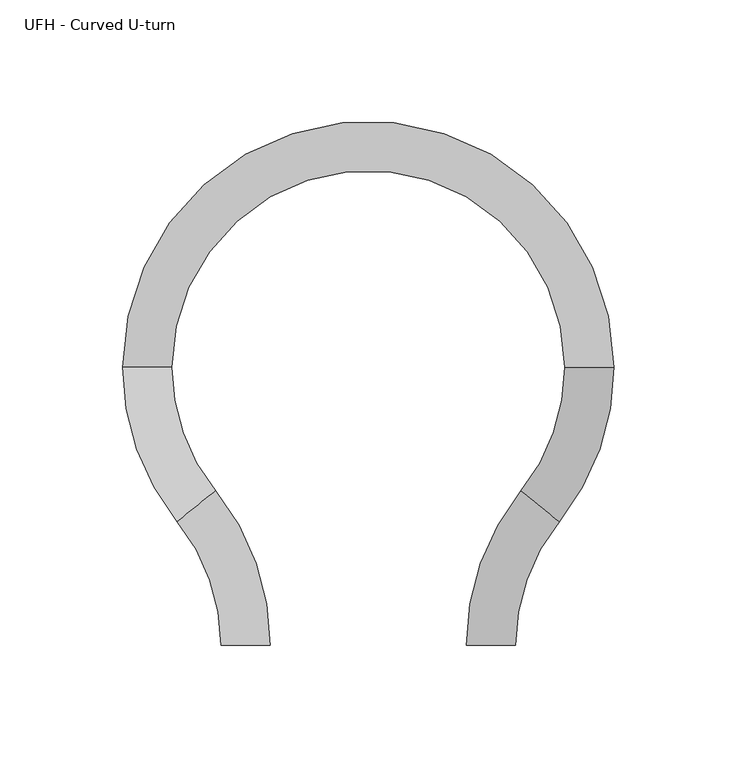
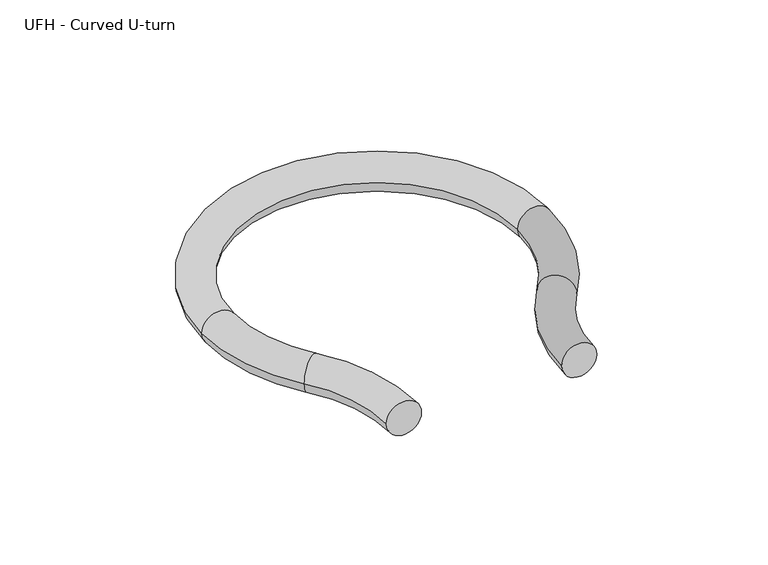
"""IFC4 building model written with IfcOpenShell, lengths in millimetres: pipe fitting geometry, UFH - Curved U-turn : Superpipe 2+ UFH Curved U-turn  - VA100."""

from ifc_helpers import new_model, si_unit, point, frame, origin, place, context, project, spatial, circle_curve, ellipse_curve, trimmed, source, transform, mapped, element, save
from ifc_brep_helpers import plane_surface, revolved_surface, advanced_brep


def ufh_curved_u_turn_aebeca01(model_context):
    return source(origin(), model_context, "Body", "AdvancedBrep", [
        advanced_brep(
        [(10.0, 0.0, 0.0), (-10.0, 0.0, 0.0), (-27.7777778, 50.2831489, 0.0), (-12.2222222, 62.8539361, 0.0), (-50.0, 113.137085, 0.0), (-30.0, 113.137085, 0.0), (150.0, 113.137085, 0.0), (130.0, 113.137085, 0.0), (127.7777778, 50.2831489, 0.0), (112.2222222, 62.8539361, 0.0), (90.0, 0.0, 0.0), (110.0, 0.0, 0.0)],
        [
            (0, 1, circle_curve(frame((0.0, 0.0, 0.0), z_axis=(0.0, -1.0, 0.0), x_axis=(-1.0, 0.0, 0.0)), 10.0)),
            (1, 0, circle_curve(frame((0.0, 0.0, 0.0), z_axis=(0.0, -1.0, 0.0), x_axis=(-1.0, 0.0, 0.0)), 10.0)),
            (2, 1, circle_curve(frame((-90.0, 0.0, 0.0), z_axis=(0.0, 0.0, -1.0), x_axis=(1.0, 0.0, 0.0)), 80.0)),
            (0, 3, circle_curve(frame((-90.0, 0.0, 0.0), z_axis=(0.0, 0.0, 1.0), x_axis=(1.0, 0.0, 0.0)), 100.0)),
            (3, 2, circle_curve(frame((-20.0, 56.5685425, 0.0), z_axis=(0.6285393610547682, -0.7777777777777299, 0.0), x_axis=(-0.7777777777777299, -0.6285393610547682, 0.0)), 10.0)),
            (2, 3, circle_curve(frame((-20.0, 56.5685425, 0.0), z_axis=(0.6285393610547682, -0.7777777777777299, 0.0), x_axis=(-0.7777777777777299, -0.6285393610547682, 0.0)), 10.0)),
            (4, 2, circle_curve(frame((50.0, 113.137085, 0.0), z_axis=(0.0, 0.0, 1.0), x_axis=(-0.7777777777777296, -0.6285393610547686, 0.0)), 100.0)),
            (3, 5, circle_curve(frame((50.0, 113.137085, 0.0), z_axis=(0.0, 0.0, -1.0), x_axis=(-0.7777777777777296, -0.6285393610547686, 0.0)), 80.0)),
            (5, 4, circle_curve(frame((-40.0, 113.137085, 0.0), z_axis=(0.0, -1.0, 0.0), x_axis=(-1.0, 0.0, 0.0)), 10.0)),
            (4, 5, circle_curve(frame((-40.0, 113.137085, 0.0), z_axis=(0.0, -1.0, 0.0), x_axis=(-1.0, 0.0, 0.0)), 10.0)),
            (6, 4, circle_curve(frame((50.0, 113.137085, 0.0), z_axis=(0.0, 0.0, 1.0), x_axis=(-1.0, 0.0, 0.0)), 100.0)),
            (5, 7, circle_curve(frame((50.0, 113.137085, 0.0), z_axis=(0.0, 0.0, -1.0), x_axis=(-1.0, 0.0, 0.0)), 80.0)),
            (7, 6, circle_curve(frame((140.0, 113.137085, 0.0), z_axis=(0.0, 1.0, 0.0), x_axis=(1.0, 0.0, 0.0)), 10.0)),
            (6, 7, circle_curve(frame((140.0, 113.137085, 0.0), z_axis=(0.0, 1.0, 0.0), x_axis=(1.0, 0.0, 0.0)), 10.0)),
            (8, 6, circle_curve(frame((50.0, 113.137085, 0.0), z_axis=(0.0, 0.0, 1.0), x_axis=(1.0, 0.0, 0.0)), 100.0)),
            (7, 9, circle_curve(frame((50.0, 113.137085, 0.0), z_axis=(0.0, 0.0, -1.0), x_axis=(1.0, 0.0, 0.0)), 80.0)),
            (9, 8, circle_curve(frame((120.0, 56.5685425, 0.0), z_axis=(0.6285393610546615, 0.7777777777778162, 0.0), x_axis=(0.7777777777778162, -0.6285393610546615, 0.0)), 10.0)),
            (8, 9, circle_curve(frame((120.0, 56.5685425, 0.0), z_axis=(0.6285393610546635, 0.7777777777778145, 0.0), x_axis=(0.7777777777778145, -0.6285393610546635, 0.0)), 10.0)),
            (10, 11, circle_curve(frame((100.0, 0.0, 0.0), z_axis=(0.0, -1.0, 0.0), x_axis=(1.0, 0.0, 0.0)), 10.0)),
            (11, 10, circle_curve(frame((100.0, 0.0, 0.0), z_axis=(0.0, -1.0, 0.0), x_axis=(1.0, 0.0, 0.0)), 10.0)),
            (11, 8, circle_curve(frame((190.0, 0.0, 0.0), z_axis=(0.0, 0.0, -1.0), x_axis=(-0.7777777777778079, 0.6285393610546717, 0.0)), 80.0)),
            (9, 10, circle_curve(frame((190.0, 0.0, 0.0), z_axis=(0.0, 0.0, 1.0), x_axis=(-0.7777777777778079, 0.6285393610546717, 0.0)), 100.0)),
        ],
        [
            plane_surface(frame((0.0, 0.0, 0.0), z_axis=(0.0, -1.0, 0.0), x_axis=(0.0, 0.0, 1.0))),
            revolved_surface(trimmed(ellipse_curve(frame((0.0, 0.0, 0.0), z_axis=(0.0, -1.0, 0.0), x_axis=(-1.0, 0.0, 0.0)), 10.0, 10.0), [point((10.0, 0.0, 0.0))], [point((-10.0, 0.0, 0.0))], True, "CARTESIAN"), (-90.0, 0.0, 0.0), (0.0, 0.0, 1.0)),
            revolved_surface(trimmed(ellipse_curve(frame((0.0, 0.0, 0.0), z_axis=(0.0, -1.0, 0.0), x_axis=(-1.0, 0.0, 0.0)), 10.0, 10.0), [point((-10.0, 0.0, 0.0))], [point((10.0, 0.0, 0.0))], True, "CARTESIAN"), (-90.0, 0.0, 0.0), (0.0, 0.0, 1.0)),
            revolved_surface(trimmed(ellipse_curve(frame((-20.0, 56.5685425, 0.0), z_axis=(0.6285393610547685, -0.7777777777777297, 0.0), x_axis=(-0.7777777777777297, -0.6285393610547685, 0.0)), 10.0, 10.0), [point((-12.2222222, 62.8539361, 0.0))], [point((-27.7777778, 50.2831489, 0.0))], True, "CARTESIAN"), (50.0, 113.137085, 0.0), (0.0, 0.0, -1.0)),
            revolved_surface(trimmed(ellipse_curve(frame((-20.0, 56.5685425, 0.0), z_axis=(0.6285393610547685, -0.7777777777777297, 0.0), x_axis=(-0.7777777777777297, -0.6285393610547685, 0.0)), 10.0, 10.0), [point((-27.7777778, 50.2831489, 0.0))], [point((-12.2222222, 62.8539361, 0.0))], True, "CARTESIAN"), (50.0, 113.137085, 0.0), (0.0, 0.0, -1.0)),
            revolved_surface(trimmed(ellipse_curve(frame((-40.0, 113.137085, 0.0), z_axis=(0.0, -1.0, 0.0), x_axis=(-1.0, 0.0, 0.0)), 10.0, 10.0), [point((-30.0, 113.137085, 0.0))], [point((-50.0, 113.137085, 0.0))], True, "CARTESIAN"), (50.0, 113.137085, 0.0), (0.0, 0.0, -1.0)),
            revolved_surface(trimmed(ellipse_curve(frame((-40.0, 113.137085, 0.0), z_axis=(0.0, -1.0, 0.0), x_axis=(-1.0, 0.0, 0.0)), 10.0, 10.0), [point((-50.0, 113.137085, 0.0))], [point((-30.0, 113.137085, 0.0))], True, "CARTESIAN"), (50.0, 113.137085, 0.0), (0.0, 0.0, -1.0)),
            revolved_surface(trimmed(ellipse_curve(frame((140.0, 113.137085, 0.0), z_axis=(0.0, 1.0, 0.0), x_axis=(1.0, 0.0, 0.0)), 10.0, 10.0), [point((130.0, 113.137085, 0.0))], [point((150.0, 113.137085, 0.0))], True, "CARTESIAN"), (50.0, 113.137085, 0.0), (0.0, 0.0, -1.0)),
            revolved_surface(trimmed(ellipse_curve(frame((140.0, 113.137085, 0.0), z_axis=(0.0, 1.0, 0.0), x_axis=(1.0, 0.0, 0.0)), 10.0, 10.0), [point((150.0, 113.137085, 0.0))], [point((130.0, 113.137085, 0.0))], True, "CARTESIAN"), (50.0, 113.137085, 0.0), (0.0, 0.0, -1.0)),
            plane_surface(frame((100.0, 0.0, 0.0), z_axis=(0.0, -1.0, 0.0), x_axis=(0.0, 0.0, 1.0))),
            revolved_surface(trimmed(ellipse_curve(frame((120.0, 56.5685425, 0.0), z_axis=(0.6285393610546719, 0.7777777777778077, 0.0), x_axis=(0.7777777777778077, -0.6285393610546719, 0.0)), 10.0, 10.0), [point((112.2222222, 62.8539361, 0.0))], [point((127.7777778, 50.2831489, 0.0))], True, "CARTESIAN"), (190.0, 0.0, 0.0), (0.0, 0.0, 1.0)),
            revolved_surface(trimmed(ellipse_curve(frame((120.0, 56.5685425, 0.0), z_axis=(0.6285393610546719, 0.7777777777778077, 0.0), x_axis=(0.7777777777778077, -0.6285393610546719, 0.0)), 10.0, 10.0), [point((127.7777778, 50.2831489, 0.0))], [point((112.2222222, 62.8539361, 0.0))], True, "CARTESIAN"), (190.0, 0.0, 0.0), (0.0, 0.0, 1.0)),
        ],
        [
            (0, [[1, 2]]),
            (1, [[3, -1, 4, 5]]),
            (2, [[-4, -2, -3, 6]]),
            (3, [[7, -5, 8, 9]]),
            (4, [[-8, -6, -7, 10]]),
            (5, [[11, -9, 12, 13]]),
            (6, [[-12, -10, -11, 14]]),
            (7, [[15, -13, 16, 17]]),
            (8, [[-16, -14, -15, 18]]),
            (9, [[19, 20]]),
            (10, [[21, -17, 22, -20]]),
            (11, [[-22, -18, -21, -19]]),
        ],
    ),
    ])


if __name__ == "__main__":
    model = new_model("IFC4")
    model_context = context("Model", 3, world=origin())
    ifc_project = project(units=[si_unit("LENGTHUNIT", "METRE", prefix="MILLI")], contexts=[model_context])
    site = spatial("IfcSite", under=ifc_project)
    building = spatial("IfcBuilding", under=site)
    placement = place(None, origin())
    ufh_curved_u_turn_shape = ufh_curved_u_turn_aebeca01(model_context)
    element("IfcPipeFitting", 1, ObjectType="UFH - Curved U-turn : Superpipe 2+ UFH Curved U-turn  - VA100", at=placement, inside=building, context=model_context, shape_type="MappedRepresentation", body=[
        mapped(ufh_curved_u_turn_shape, transform((0.0, 0.0, 0.0), x_axis=(1.0, 0.0, 0.0), y_axis=(0.0, 1.0, 0.0), z_axis=(0.0, 0.0, 1.0))),
    ])
    save(model, "model.ifc")
